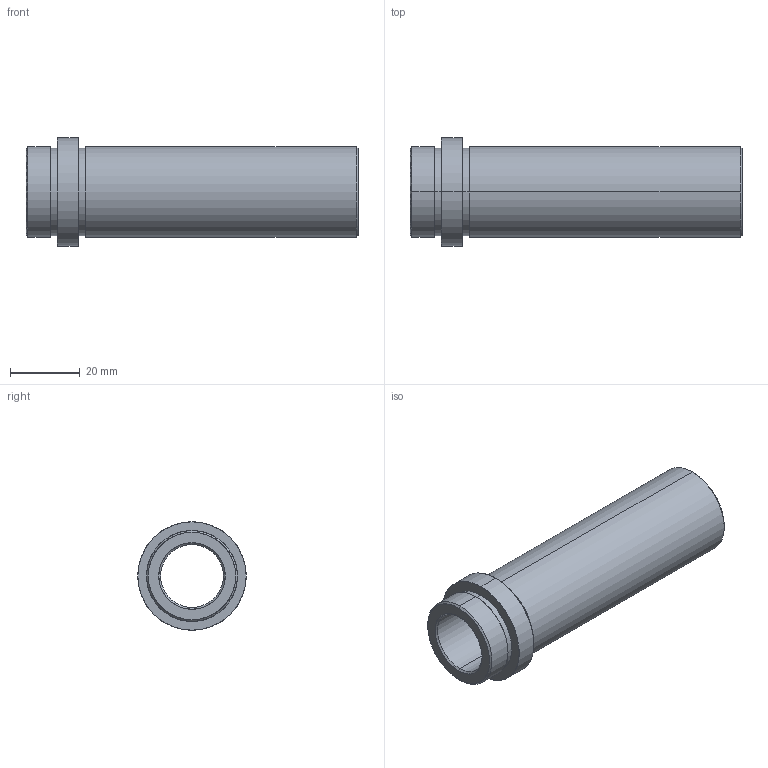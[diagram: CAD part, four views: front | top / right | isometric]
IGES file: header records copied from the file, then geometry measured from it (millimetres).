
Start section: SolidWorks IGES FILE using analytic representation for surfaces
Global section: file name: D:\zzzzz\Delta\D21\18\D21 - 18x86.IGS; native system: SolidWorks 2004 by SolidWorks Corporation; preprocessor: Version 5.3; author: Hkn; date: 080326.191752; units: millimetre
Bounding box: 95 x 31 x 31 mm (x, y, z)
Surface area: 14293.4 mm2 (no closed solid volume)
Topology: 0 solids, 0 shells, 26 faces, 528 edges, 528 vertices
Faces by surface type: revolution 20, bspline 6
